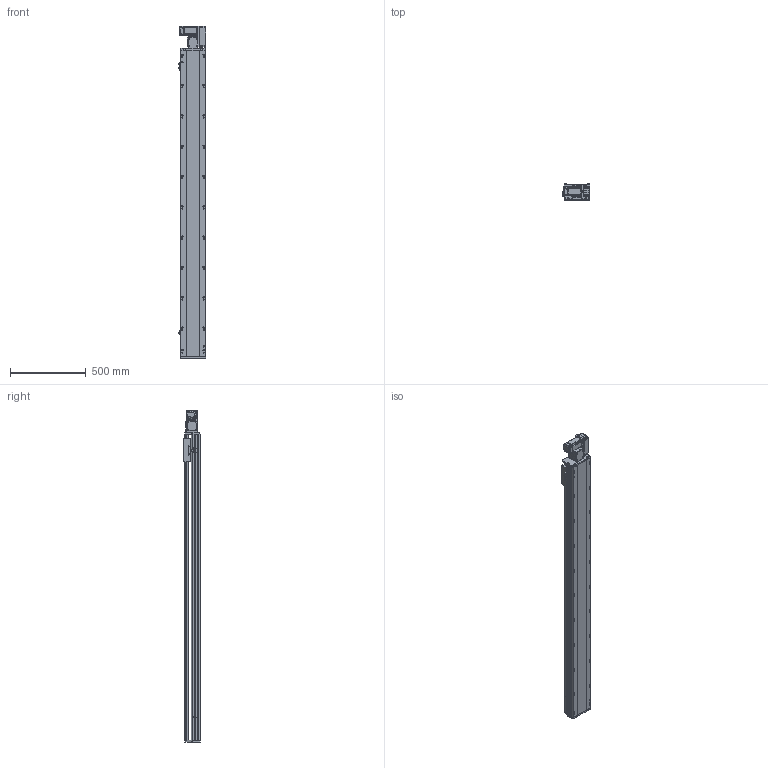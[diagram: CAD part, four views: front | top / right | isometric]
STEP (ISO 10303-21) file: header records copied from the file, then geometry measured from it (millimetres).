
FILE_DESCRIPTION (( 'STEP AP214' ), '1' );
FILE_NAME ('RTB17S-XX-1750-R-M40-C4.STEP', '2025-12-11T07:42:21', ( '' ), ( '' ), 'SwSTEP 2.0', 'SolidWorks 2018', '' );
FILE_SCHEMA (( 'AUTOMOTIVE_DESIGN' ));
Length unit declared in the file: millimetre
Products named in the file (14): RTB17S-R-々湍釱蚾饜-400W^RTB17S-XX-XX-R-M40-C4; RTB17S-XX-1750-R-M40-C4; 400W侜督萇儂^RTB17S-XX-XX-R-M40-C4; RTB14-L-005P--轴承塑胶压盖^RTB17S-R-皮带座装配-400W_RTB17S-XX-XX-R-M40-C4; RTB17S-L-001耜醱啣^RTB17S-XX-XX-R-M40-C4; RTB14-L-018P^RTB17S-R-々湍釱蚾饜-400W_RTB17S-XX-XX-R-M40-C4; RTB17S-L-014-T20--々湍釱^RTB17S-R-々湍釱蚾饜-400W_RTB17S-XX-XX-R-M40-C4; RTH13-BL-012覜茼え俋离^RTB17S-XX-XX-R-M40-C4; RTB17S-L-007奻裔^RTB17S-XX-XX-R-M40-C4; RTB17S-L-004佪裝蹟譫蟀諉釱^RTB17S-XX-XX-R-M40-C4; RTB17-R-011菁釱^RTB17S-XX-XX-R-M40-C4; OMRON EE-SX672 传感器^RTB17S-XX-XX-R-M40-C4; RTB14-L-017P^RTB17S-R-々湍釱蚾饜-400W_RTB17S-XX-XX-R-M40-C4; RTB14-L-008-M20--萇儂啣^RTB17S-R-々湍釱蚾饜-400W_RTB17S-XX-XX-R-M40-C4
Assembly tree (16 placements, depth 3):
  RTB17S-XX-1750-R-M40-C4
    RTB17-R-011菁釱^RTB17S-XX-XX-R-M40-C4
    RTB17S-L-007奻裔^RTB17S-XX-XX-R-M40-C4
    OMRON EE-SX672 传感器^RTB17S-XX-XX-R-M40-C4  x3
    RTB17S-L-001耜醱啣^RTB17S-XX-XX-R-M40-C4
    400W侜督萇儂^RTB17S-XX-XX-R-M40-C4
    RTB17S-L-004佪裝蹟譫蟀諉釱^RTB17S-XX-XX-R-M40-C4
    RTH13-BL-012覜茼え俋离^RTB17S-XX-XX-R-M40-C4
    RTB17S-R-々湍釱蚾饜-400W^RTB17S-XX-XX-R-M40-C4
      RTB17S-L-014-T20--々湍釱^RTB17S-R-々湍釱蚾饜-400W_RTB17S-XX-XX-R-M40-C4
      RTB14-L-005P--轴承塑胶压盖^RTB17S-R-皮带座装配-400W_RTB17S-XX-XX-R-M40-C4
      RTB14-L-008-M20--萇儂啣^RTB17S-R-々湍釱蚾饜-400W_RTB17S-XX-XX-R-M40-C4
      RTB14-L-017P^RTB17S-R-々湍釱蚾饜-400W_RTB17S-XX-XX-R-M40-C4  x2
      RTB14-L-018P^RTB17S-R-々湍釱蚾饜-400W_RTB17S-XX-XX-R-M40-C4
Bounding box: 183.5 x 108 x 2191 mm (x, y, z)
Volume: 18490544.7 mm3; surface area: 2165033.4 mm2
Topology: 15 solids, 15 shells, 2269 faces, 6303 edges, 4113 vertices
Faces by surface type: plane 1076, cylinder 745, bspline 301, cone 139, torus 8
Entity records: 65705 total; most frequent: CARTESIAN_POINT 18508, ORIENTED_EDGE 9450, DIRECTION 8756, EDGE_CURVE 4725, VERTEX_POINT 3101, AXIS2_PLACEMENT_3D 3031, VECTOR 2694, LINE 2694
